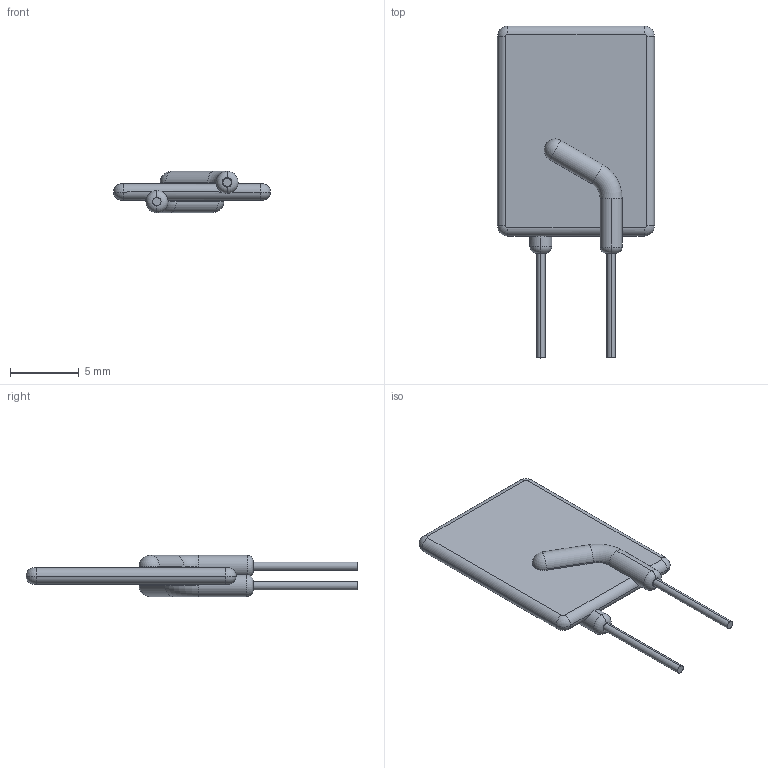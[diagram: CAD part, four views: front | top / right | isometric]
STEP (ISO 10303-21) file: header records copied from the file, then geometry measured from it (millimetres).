
FILE_DESCRIPTION (( 'STEP AP214' ), '1' );
FILE_NAME ('RUEF300-1.STEP', '2023-06-15T03:38:18', ( '' ), ( '' ), 'SwSTEP 2.0', 'SolidWorks 2017', '' );
FILE_SCHEMA (( 'AUTOMOTIVE_DESIGN' ));
Length unit declared in the file: millimetre
Products named in the file (1): RUEF300-1
Bounding box: 11.4 x 24.1 x 3 mm (x, y, z)
Volume: 228.6 mm3; surface area: 447 mm2
Topology: 3 solids, 3 shells, 54 faces, 130 edges, 80 vertices
Faces by surface type: cylinder 24, torus 18, plane 8, sphere 4
Entity records: 1660 total; most frequent: CARTESIAN_POINT 315, DIRECTION 310, ORIENTED_EDGE 252, AXIS2_PLACEMENT_3D 137, EDGE_CURVE 126, CIRCLE 82, VERTEX_POINT 78, ADVANCED_FACE 54
